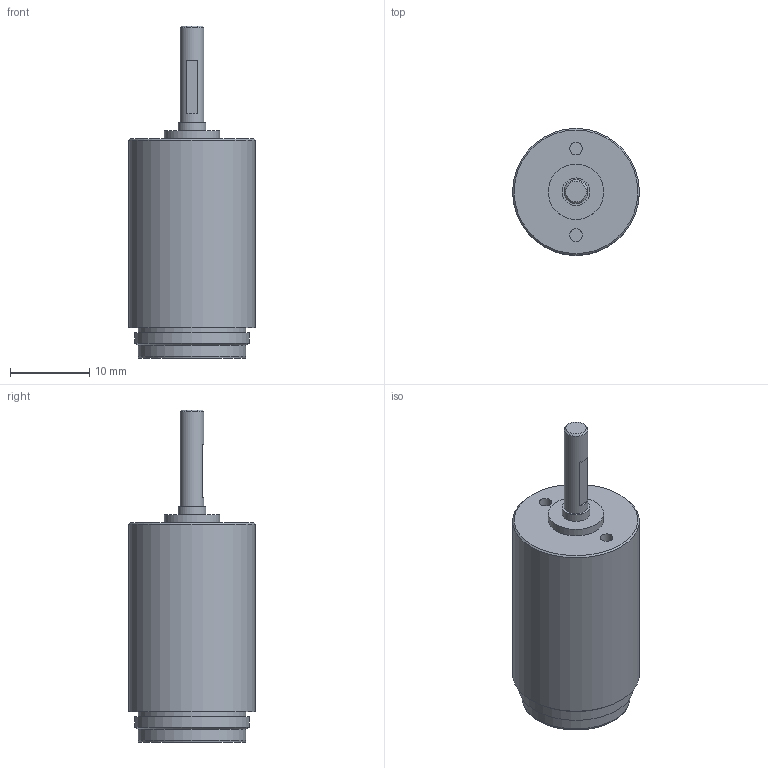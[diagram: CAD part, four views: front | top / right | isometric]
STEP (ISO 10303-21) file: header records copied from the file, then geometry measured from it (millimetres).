
FILE_DESCRIPTION(/* description */ (''),/* implementation_level */ '2;1');
FILE_NAME(/* name */ '16-7_5.stp',/* time_stamp */ '2016-09-09T15:17:22+02:00',/* author */ ('DR. FRITZ FAULHABER GmbH & Co. KG'),/* organization */ ('DR. FRITZ FAULHABER GmbH & Co. KG'),/* preprocessor_version */ 'ST-DEVELOPER v16',/* originating_system */ 'SIEMENS PLM Software NX 10.0',/* authorisation */ '');
FILE_SCHEMA (('AUTOMOTIVE_DESIGN { 1 0 10303 214 3 1 1 1 }'));
Length unit declared in the file: millimetre
Products named in the file (1): H00001178_A
Bounding box: 16 x 16 x 41.9 mm (x, y, z)
Volume: 5426.9 mm3; surface area: 2023 mm2
Topology: 1 solids, 1 shells, 27 faces, 57 edges, 47 vertices
Faces by surface type: plane 13, cylinder 10, cone 4
Full cylindrical faces by diameter (mm): 1.6 x2, 3 x1, 3.5 x1, 6 x1, 7 x1, 13.6 x2, 14.5 x1, 16 x1
Entity records: 697 total; most frequent: DIRECTION 129, CARTESIAN_POINT 97, AXIS2_PLACEMENT_3D 60, ORIENTED_EDGE 58, EDGE_LOOP 50, FACE_BOUND 43, CIRCLE 32, EDGE_CURVE 29
